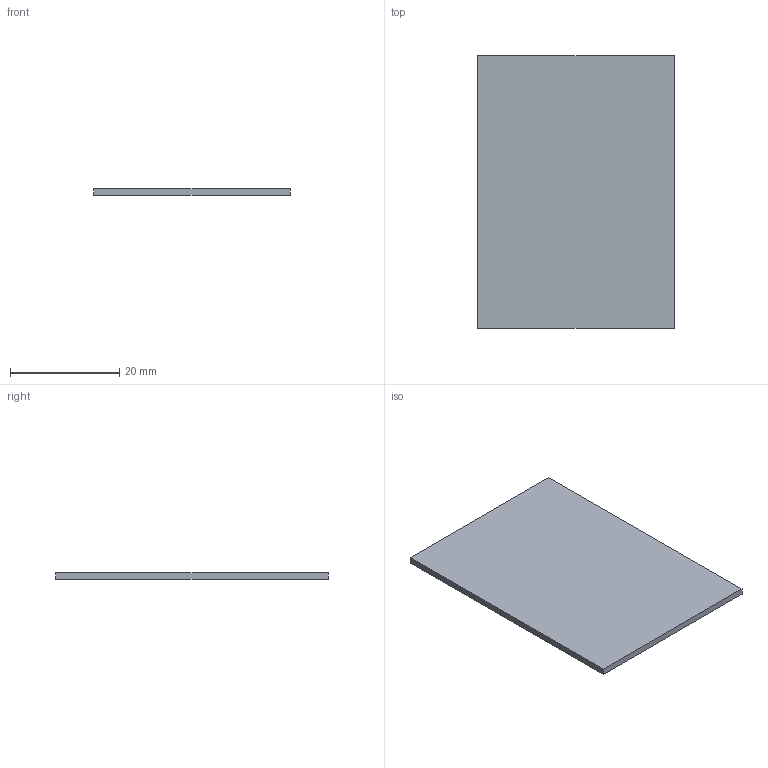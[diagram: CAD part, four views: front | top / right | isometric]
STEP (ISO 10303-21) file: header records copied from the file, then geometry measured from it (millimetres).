
FILE_DESCRIPTION(('Open CASCADE Model'),'2;1');
FILE_NAME('Open CASCADE Shape Model','2026-10-17T17:22:23',('Author'),( 'Open CASCADE'),'Open CASCADE STEP processor 7.9','Open CASCADE 7.9' ,'Unknown');
FILE_SCHEMA(('AUTOMOTIVE_DESIGN { 1 0 10303 214 1 1 1 1 }'));
Length unit declared in the file: millimetre
Products named in the file (1): Open CASCADE STEP translator 7.9 13
Bounding box: 36 x 50 x 1.2 mm (x, y, z)
Volume: 2160 mm3; surface area: 3806.4 mm2
Topology: 1 solids, 1 shells, 6 faces, 12 edges, 8 vertices
Faces by surface type: plane 6
Entity records: 322 total; most frequent: CARTESIAN_POINT 51, DIRECTION 50, LINE 36, VECTOR 36, ORIENTED_EDGE 24, PCURVE 24, DEFINITIONAL_REPRESENTATION 24, EDGE_CURVE 12
